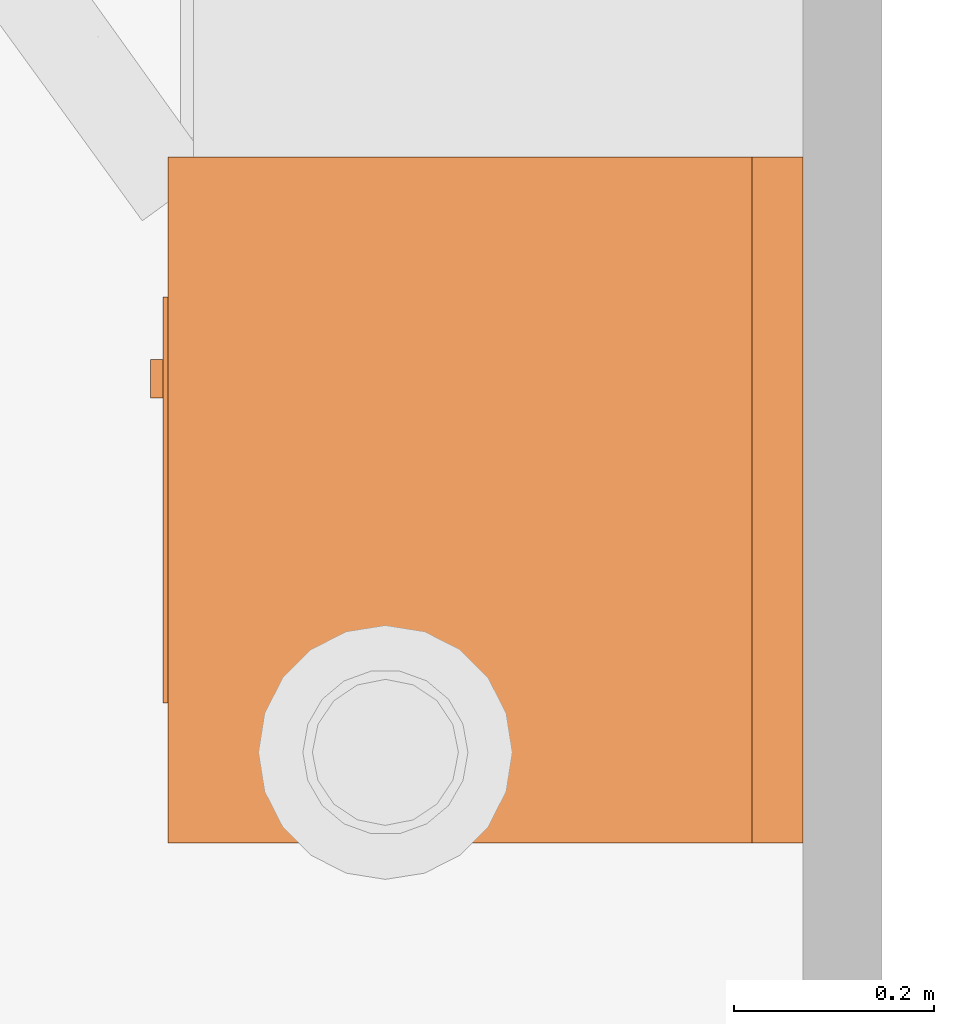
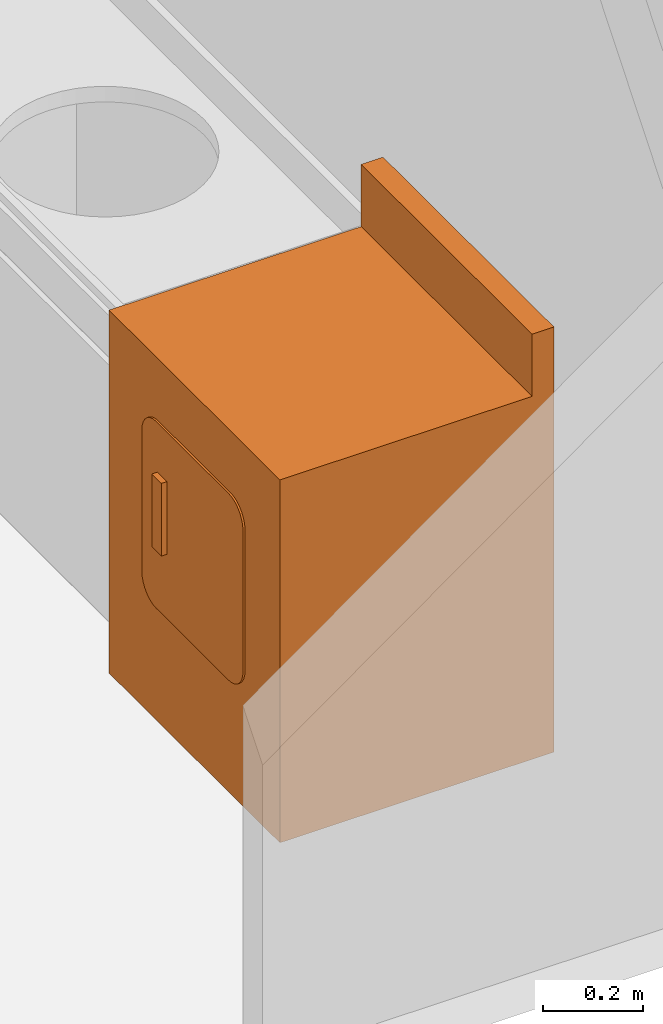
# One storey, part 27 of 28: 1 proxy.
"""IFC2X3 building model written with IfcOpenShell, lengths in feet."""

from ifc_helpers import new_model, entity, si_unit, converted_unit, derived_unit, direction, frame, frame_2d, origin, place, context, subcontext, project, spatial, polyline, circle_curve, parameter, trimmed, segment, composite_curve, rectangle, outline, extrude, source, transform, mapped, material, type_object, type_shapes, element, save


model = new_model("IFC2X3")

# Units and contexts
model_context = context("Model", 3, precision=0.0001, world=origin(), true_north=direction((6.12303176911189e-17, 1.0)))
body_context = subcontext(model_context, "Body", "Model", "MODEL_VIEW")
ifc_project = project(units=[converted_unit("LENGTHUNIT", "FOOT", entity("IfcRatioMeasure", 0.3048), si_unit("LENGTHUNIT", "METRE"), dimensions=[1, 0, 0, 0, 0, 0, 0]), converted_unit("AREAUNIT", "SQUARE FOOT", entity("IfcRatioMeasure", 0.09290304), si_unit("AREAUNIT", "SQUARE_METRE"), dimensions=[2, 0, 0, 0, 0, 0, 0]), converted_unit("VOLUMEUNIT", "CUBIC FOOT", entity("IfcRatioMeasure", 0.028316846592), si_unit("VOLUMEUNIT", "CUBIC_METRE"), dimensions=[3, 0, 0, 0, 0, 0, 0]), converted_unit("PLANEANGLEUNIT", "DEGREE", entity("IfcRatioMeasure", 0.0174532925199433), si_unit("PLANEANGLEUNIT", "RADIAN"), dimensions=[0, 0, 0, 0, 0, 0, 0]), si_unit("MASSUNIT", "GRAM", prefix="KILO"), derived_unit("MASSDENSITYUNIT", [(si_unit("MASSUNIT", "GRAM", prefix="KILO"), 1), (si_unit("LENGTHUNIT", "METRE"), -3)]), si_unit("TIMEUNIT", "SECOND"), si_unit("FREQUENCYUNIT", "HERTZ"), si_unit("THERMODYNAMICTEMPERATUREUNIT", "DEGREE_CELSIUS"), derived_unit("THERMALTRANSMITTANCEUNIT", [(si_unit("MASSUNIT", "GRAM", prefix="KILO"), 1), (si_unit("THERMODYNAMICTEMPERATUREUNIT", "KELVIN"), -1), (si_unit("TIMEUNIT", "SECOND"), -3)]), derived_unit("VOLUMETRICFLOWRATEUNIT", [(si_unit("LENGTHUNIT", "METRE"), 3), (si_unit("TIMEUNIT", "SECOND"), -1)]), si_unit("ELECTRICCURRENTUNIT", "AMPERE"), si_unit("ELECTRICVOLTAGEUNIT", "VOLT"), si_unit("POWERUNIT", "WATT"), si_unit("FORCEUNIT", "NEWTON"), si_unit("ILLUMINANCEUNIT", "LUX"), si_unit("LUMINOUSFLUXUNIT", "LUMEN"), si_unit("LUMINOUSINTENSITYUNIT", "CANDELA"), derived_unit("USERDEFINED", [(si_unit("MASSUNIT", "GRAM", prefix="KILO"), -1), (si_unit("LENGTHUNIT", "METRE"), -2), (si_unit("TIMEUNIT", "SECOND"), 3), (si_unit("LUMINOUSFLUXUNIT", "LUMEN"), 1)]), derived_unit("LINEARVELOCITYUNIT", [(si_unit("LENGTHUNIT", "METRE"), 1), (si_unit("TIMEUNIT", "SECOND"), -1)]), si_unit("PRESSUREUNIT", "PASCAL"), derived_unit("USERDEFINED", [(si_unit("LENGTHUNIT", "METRE"), -2), (si_unit("MASSUNIT", "GRAM", prefix="KILO"), 1), (si_unit("TIMEUNIT", "SECOND"), -2)])], contexts=[model_context])

# Site, building, storey
site_placement = place(None, origin())
site = spatial("IfcSite", under=ifc_project, at=site_placement, Name="表面", CompositionType="ELEMENT")
building_placement = place(site_placement, origin())
building = spatial("IfcBuilding", under=site, at=building_placement, CompositionType="ELEMENT")
storey_placement = place(building_placement, frame((0.0, 0.0, 10.0)))
storey = spatial("IfcBuildingStorey", under=building, at=storey_placement, Name="Level 2", CompositionType="ELEMENT", Elevation=9.99999999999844)

# Proxy
ifc_material = material(Name="Metal - Paint Finish - Ivory, Glossy")
building_element_proxy_type = type_object("IfcBuildingElementProxyType", Name="27\" x 25\" x 35\"", PredefinedType="NOTDEFINED", material=ifc_material)
shared_shape = source(origin(), body_context, "Body", "SweptSolid", [
    extrude(rectangle(XDim=0.0416666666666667, YDim=0.125, at=frame_2d((3.46944695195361e-18, 1.11022302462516e-16), x_axis=(1.0, 0.0))), frame((0.845516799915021, -0.0457726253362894, 1.43951749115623), z_axis=(0.0, 0.0, 1.0), x_axis=(0.0, 1.0, 0.0)), (0.0, 0.0, 1.0), 0.583333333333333),
    extrude(outline(composite_curve([segment(trimmed(circle_curve(frame_2d((-0.479166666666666, 0.562499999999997), x_axis=(1.0, 0.0)), 0.1875), [parameter(90.0000000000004)], [parameter(180.0)], True, "PARAMETER"), True, "CONTINUOUS"), segment(polyline([(-0.666666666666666, 0.562499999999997), (-0.666666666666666, -0.562499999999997)]), True, "CONTINUOUS"), segment(trimmed(circle_curve(frame_2d((-0.479166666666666, -0.562499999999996), x_axis=(1.0, 0.0)), 0.1875), [parameter(180.000000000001)], [parameter(270.0)], True, "PARAMETER"), True, "CONTINUOUS"), segment(polyline([(-0.479166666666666, -0.749999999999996), (0.479166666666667, -0.749999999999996)]), True, "CONTINUOUS"), segment(trimmed(circle_curve(frame_2d((0.479166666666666, -0.562499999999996), x_axis=(1.0, 0.0)), 0.1875), [parameter(270.0)], [parameter(3.56222124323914e-13)], True, "PARAMETER"), True, "CONTINUOUS"), segment(polyline([(0.666666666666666, -0.562499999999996), (0.666666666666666, 0.562499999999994)]), True, "CONTINUOUS"), segment(trimmed(circle_curve(frame_2d((0.479166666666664, 0.562499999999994), x_axis=(1.0, 0.0)), 0.187500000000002), [parameter(4.07110999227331e-13)], [parameter(90.0000000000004)], True, "PARAMETER"), True, "CONTINUOUS"), segment(polyline([(0.479166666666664, 0.749999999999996), (-0.479166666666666, 0.749999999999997)]), True, "CONTINUOUS")], self_intersect=False)), frame((1.24339716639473, -0.024939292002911, 1.67002573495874), z_axis=(0.0, 1.0, 0.0), x_axis=(-1.0, 0.0, 0.0)), (0.0, 0.0, 1.0), 0.0156250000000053),
    extrude(outline(polyline([(-2.11111111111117, -0.749999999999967), (1.3055555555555, -0.749999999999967), (1.30555555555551, -0.583333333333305), (0.80555555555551, -0.583333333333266), (0.805555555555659, 1.33333333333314), (-2.11111111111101, 1.33333333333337), (-2.11111111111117, -0.749999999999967)])), frame((0.118397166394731, 1.32401904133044, 2.11111111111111), z_axis=(1.0, 0.0, 0.0), x_axis=(0.0, 0.0, 1.0)), (0.0, 0.0, 1.0), 2.25000000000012),
])
type_shapes(building_element_proxy_type, [shared_shape])
proxy_placement = place(storey_placement, frame((9.51085954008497, -0.246084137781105, 0.343749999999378), z_axis=(0.0, 0.0, 1.0), x_axis=(0.0, -1.0, 0.0)))
element("IfcBuildingElementProxy", 1, at=proxy_placement, inside=storey, type_object=building_element_proxy_type, material=ifc_material, Name="Dryer:27\" x 25\" x 35\"", ObjectType="27\" x 25\" x 35\"", context=body_context, shape_type="MappedRepresentation", body=[
    mapped(shared_shape, transform((0.0, 0.0, 0.0), scale=1.0)),
])

save(model, "model.ifc")
